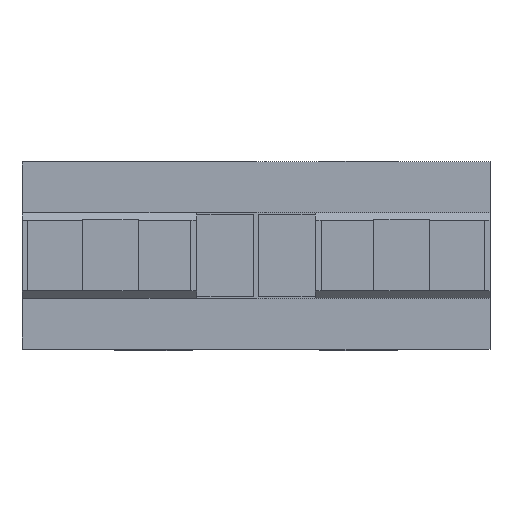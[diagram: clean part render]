
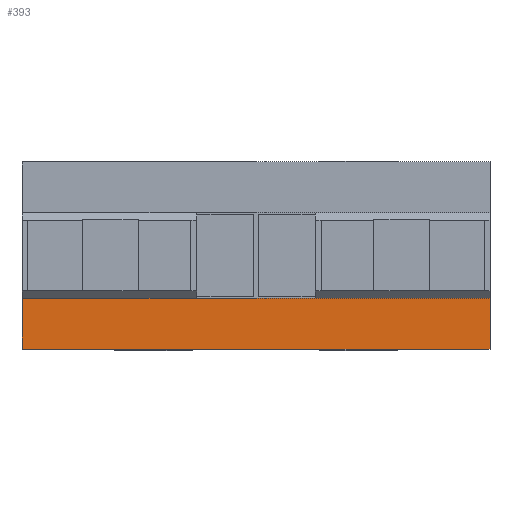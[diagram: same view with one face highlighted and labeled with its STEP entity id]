
A CAD part, top view. The second image highlights one B-rep face of the part: STEP entity #393.
In plain terms, the highlighted planar face has unit normal (0, 0, 1).
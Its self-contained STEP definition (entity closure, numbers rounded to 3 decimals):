
#393 = ADVANCED_FACE( '', ( #856 ), #857, .F. );
#856 = FACE_OUTER_BOUND( '', #1406, .T. );
#857 = PLANE( '', #1407 );
#1406 = EDGE_LOOP( '', ( #2392, #2393, #2394, #2395 ) );
#1407 = AXIS2_PLACEMENT_3D( '', #2396, #2397, #2398 );
#2392 = ORIENTED_EDGE( '', *, *, #3284, .T. );
#2393 = ORIENTED_EDGE( '', *, *, #3445, .F. );
#2394 = ORIENTED_EDGE( '', *, *, #3232, .F. );
#2395 = ORIENTED_EDGE( '', *, *, #3446, .T. );
#2396 = CARTESIAN_POINT( '', ( 59.5, -10.9, 111. ) );
#2397 = DIRECTION( '', ( 0., 0., -1. ) );
#2398 = DIRECTION( '', ( -1., 0., 0. ) );
#3232 = EDGE_CURVE( '', #3888, #3890, #3891, .T. );
#3284 = EDGE_CURVE( '', #3972, #3970, #3973, .T. );
#3445 = EDGE_CURVE( '', #3890, #3970, #4210, .T. );
#3446 = EDGE_CURVE( '', #3888, #3972, #4211, .T. );
#3888 = VERTEX_POINT( '', #4790 );
#3890 = VERTEX_POINT( '', #4793 );
#3891 = LINE( '', #4794, #4795 );
#3970 = VERTEX_POINT( '', #4907 );
#3972 = VERTEX_POINT( '', #4910 );
#3973 = LINE( '', #4911, #4912 );
#4210 = LINE( '', #5245, #5246 );
#4211 = LINE( '', #5247, #5248 );
#4790 = CARTESIAN_POINT( '', ( 59.5, -10.9, 111. ) );
#4793 = CARTESIAN_POINT( '', ( 59.5, -23.8, 111. ) );
#4794 = CARTESIAN_POINT( '', ( 59.5, -10.9, 111. ) );
#4795 = VECTOR( '', #5682, 1000. );
#4907 = CARTESIAN_POINT( '', ( -59.5, -23.8, 111. ) );
#4910 = CARTESIAN_POINT( '', ( -59.5, -10.9, 111. ) );
#4911 = CARTESIAN_POINT( '', ( -59.5, -10.9, 111. ) );
#4912 = VECTOR( '', #5738, 1000. );
#5245 = CARTESIAN_POINT( '', ( 59.5, -23.8, 111. ) );
#5246 = VECTOR( '', #5904, 1000. );
#5247 = CARTESIAN_POINT( '', ( 59.5, -10.9, 111. ) );
#5248 = VECTOR( '', #5905, 1000. );
#5682 = DIRECTION( '', ( 0., -1., 0. ) );
#5738 = DIRECTION( '', ( 0., -1., 0. ) );
#5904 = DIRECTION( '', ( -1., 0., 0. ) );
#5905 = DIRECTION( '', ( -1., 0., 0. ) );
